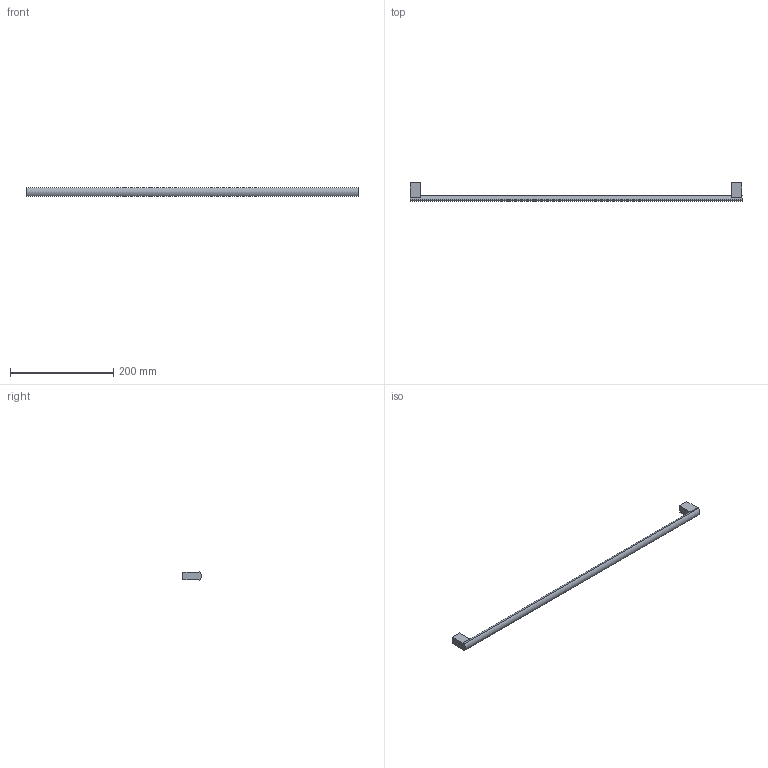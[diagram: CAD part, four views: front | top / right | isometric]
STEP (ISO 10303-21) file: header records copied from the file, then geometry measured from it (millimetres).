
FILE_DESCRIPTION( ( 'STEP AP214' ), '1' );
FILE_NAME( 'D:/Shahbaz D&D/Task/Check and correct handles with 3 drill sockets/Clivia/115364.stp', '2023-02-20T11:10:23', ( '' ), ( '' ), ' ', 'PARTsolutions', ' ' );
FILE_SCHEMA( ( 'AUTOMOTIVE_DESIGN { 1 0 10303 214 1 1 1 1 }' ) );
Length unit declared in the file: millimetre
Products named in the file (1): _115364
Bounding box: 644 x 35.96 x 16 mm (x, y, z)
Volume: 101545.4 mm3; surface area: 31776.1 mm2
Topology: 1 solids, 1 shells, 21 faces, 48 edges, 32 vertices
Faces by surface type: plane 17, cylinder 4
Full cylindrical faces by diameter (mm): 4 x2
Entity records: 768 total; most frequent: DIRECTION 102, CARTESIAN_POINT 100, ORIENTED_EDGE 92, EDGE_CURVE 46, AXIS2_PLACEMENT_3D 34, LINE 34, VECTOR 34, VERTEX_POINT 32
